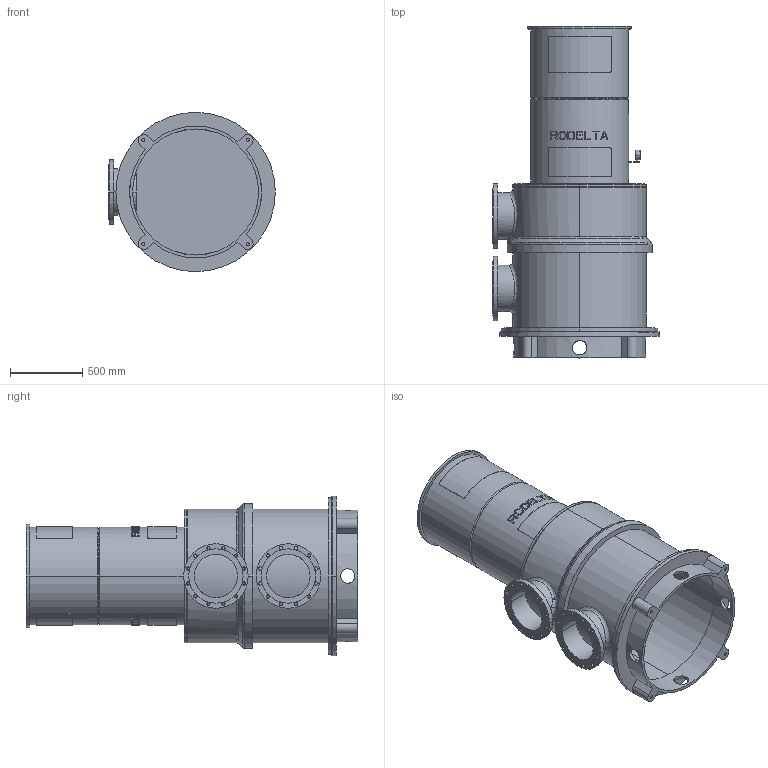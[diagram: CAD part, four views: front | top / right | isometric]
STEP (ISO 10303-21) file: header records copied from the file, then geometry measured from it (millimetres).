
FILE_DESCRIPTION((''),'2;1');
FILE_NAME('LS12_1TR_0GR_UPTO_90KW','2023-08-25T',('Lyritlocal'),(''),'PRO/ENGINEER BY PARAMETRIC TECHNOLOGY CORPORATION, 2016360','PRO/ENGINEER BY PARAMETRIC TECHNOLOGY CORPORATION, 2016360','');
FILE_SCHEMA(('CONFIG_CONTROL_DESIGN'));
Length unit declared in the file: millimetre
Products named in the file (1): LS12_1TR_0GR_UPTO_90KW
Bounding box: 1150 x 2290 x 1100 mm (x, y, z)
Volume: 119086542.1 mm3; surface area: 15391271.4 mm2
Topology: 3 solids, 7 shells, 559 faces, 1467 edges, 971 vertices
Faces by surface type: plane 335, cylinder 198, cone 13, bspline 10, torus 3
Entity records: 18684 total; most frequent: CARTESIAN_POINT 5086, ORIENTED_EDGE 2918, DIRECTION 2627, EDGE_CURVE 1467, AXIS2_PLACEMENT_3D 998, VERTEX_POINT 971, EDGE_LOOP 676, VECTOR 631
